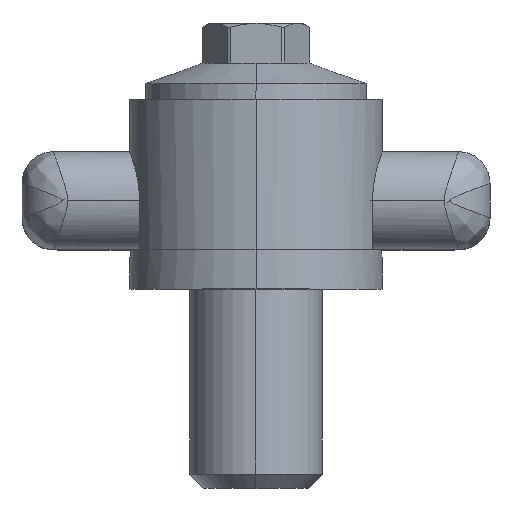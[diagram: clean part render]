
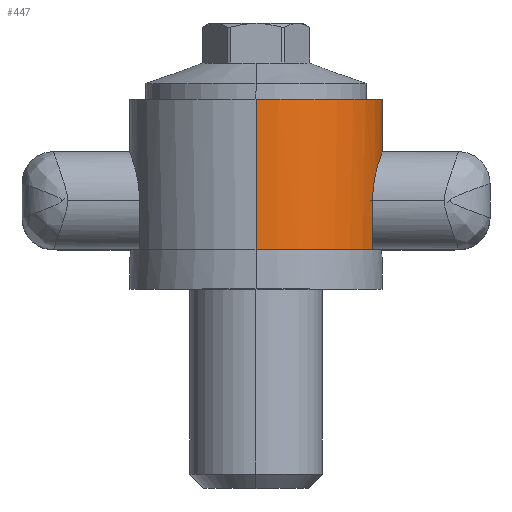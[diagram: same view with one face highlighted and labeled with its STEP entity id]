
A CAD part, top view. The second image highlights one B-rep face of the part: STEP entity #447.
In plain terms, the highlighted cylindrical face has radius 40 mm (diameter 80 mm), a partial arc.
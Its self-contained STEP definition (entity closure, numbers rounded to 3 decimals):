
#398 = EDGE_LOOP ( 'NONE', ( #399, #403, #426, #429, #432, #435, #438, #414 ) ) ;
#399 = ORIENTED_EDGE ( 'NONE', *, *, #400, .F. ) ;
#400 = EDGE_CURVE ( 'NONE', #401, #402, #1291, .T. ) ;
#401 = VERTEX_POINT ( 'NONE', #1283 ) ;
#402 = VERTEX_POINT ( 'NONE', #1282 ) ;
#403 = ORIENTED_EDGE ( 'NONE', *, *, #404, .T. ) ;
#404 = EDGE_CURVE ( 'NONE', #401, #425, #1281, .T. ) ;
#412 = EDGE_CURVE ( 'NONE', #413, #437, #1324, .T. ) ;
#413 = VERTEX_POINT ( 'NONE', #1316 ) ;
#414 = ORIENTED_EDGE ( 'NONE', *, *, #415, .F. ) ;
#415 = EDGE_CURVE ( 'NONE', #402, #413, #1315, .T. ) ;
#425 = VERTEX_POINT ( 'NONE', #1352 ) ;
#426 = ORIENTED_EDGE ( 'NONE', *, *, #427, .F. ) ;
#427 = EDGE_CURVE ( 'NONE', #428, #425, #1351, .T. ) ;
#428 = VERTEX_POINT ( 'NONE', #1346 ) ;
#429 = ORIENTED_EDGE ( 'NONE', *, *, #430, .T. ) ;
#430 = EDGE_CURVE ( 'NONE', #428, #431, #1345, .T. ) ;
#431 = VERTEX_POINT ( 'NONE', #1341 ) ;
#432 = ORIENTED_EDGE ( 'NONE', *, *, #433, .T. ) ;
#433 = EDGE_CURVE ( 'NONE', #431, #434, #1339, .T. ) ;
#434 = VERTEX_POINT ( 'NONE', #1340 ) ;
#435 = ORIENTED_EDGE ( 'NONE', *, *, #436, .T. ) ;
#436 = EDGE_CURVE ( 'NONE', #434, #437, #1364, .T. ) ;
#437 = VERTEX_POINT ( 'NONE', #1439 ) ;
#438 = ORIENTED_EDGE ( 'NONE', *, *, #412, .F. ) ;
#447 = ADVANCED_FACE ( 'NONE', ( #1421 ), #1420, .T. ) ;
#1278 = DIRECTION ( 'NONE',  ( 0., -1., 0. ) ) ;
#1279 = VECTOR ( 'NONE', #1278, 1000. ) ;
#1280 = CARTESIAN_POINT ( 'NONE',  ( 0., 84., 40. ) ) ;
#1281 = LINE ( 'NONE', #1280, #1279 ) ;
#1282 = CARTESIAN_POINT ( 'NONE',  ( 0., 60., -40. ) ) ;
#1283 = CARTESIAN_POINT ( 'NONE',  ( 0., 60., 40. ) ) ;
#1284 = DIRECTION ( 'NONE',  ( 0., 0., 1. ) ) ;
#1285 = DIRECTION ( 'NONE',  ( 0., 1., 0. ) ) ;
#1286 = CARTESIAN_POINT ( 'NONE',  ( 0., 60., 0. ) ) ;
#1287 = AXIS2_PLACEMENT_3D ( 'NONE', #1286, #1285, #1284 ) ;
#1291 = CIRCLE ( 'NONE', #1287, 40. ) ;
#1312 = DIRECTION ( 'NONE',  ( 0., -1., 0. ) ) ;
#1313 = VECTOR ( 'NONE', #1312, 1000. ) ;
#1314 = CARTESIAN_POINT ( 'NONE',  ( 0., 84., -40. ) ) ;
#1315 = LINE ( 'NONE', #1314, #1313 ) ;
#1316 = CARTESIAN_POINT ( 'NONE',  ( 0., 12.5, -40. ) ) ;
#1317 = DIRECTION ( 'NONE',  ( 0., 0., -1. ) ) ;
#1318 = DIRECTION ( 'NONE',  ( 0., -1., 0. ) ) ;
#1319 = CARTESIAN_POINT ( 'NONE',  ( 0., 12.5, 0. ) ) ;
#1320 = AXIS2_PLACEMENT_3D ( 'NONE', #1319, #1318, #1317 ) ;
#1324 = CIRCLE ( 'NONE', #1320, 40. ) ;
#1334 = CARTESIAN_POINT ( 'NONE',  ( 37.092, 32.039, 14.973 ) ) ;
#1335 = CARTESIAN_POINT ( 'NONE',  ( 37.041, 31.545, 15.098 ) ) ;
#1336 = CARTESIAN_POINT ( 'NONE',  ( 36.918, 30.05, 15.397 ) ) ;
#1337 = CARTESIAN_POINT ( 'NONE',  ( 36.875, 29.035, 15.5 ) ) ;
#1338 = CARTESIAN_POINT ( 'NONE',  ( 36.875, 28., 15.5 ) ) ;
#1339 = B_SPLINE_CURVE_WITH_KNOTS ( 'NONE', 3,
 ( #1338, #1337, #1336, #1335, #1334, #1409, #1408, #1407, #1406, #1405, #1404, #1403, #1402, #1401, #1400, #1399, #1398, #1397, #1396, #1395, #1394, #1393, #1392, #1391, #1390, #1389, #1388, #1387, #1386, #1385, #1384, #1383, #1382, #1381, #1380, #1379, #1378, #1377, #1376, #1375, #1374, #1373, #1372, #1371, #1370, #1369, #1368, #1367, #1366, #1365 ),
 .UNSPECIFIED., .F., .F.,
 ( 4, 2, 2, 2, 2, 2, 2, 2, 2, 2, 2, 2, 2, 2, 2, 2, 2, 2, 2, 2, 2, 2, 2, 2, 4 ),
 ( 0., 0.003, 0.005, 0.006, 0.009, 0.011, 0.012, 0.014, 0.015, 0.018, 0.02, 0.021, 0.024, 0.026, 0.028, 0.031, 0.034, 0.035, 0.037, 0.04, 0.041, 0.043, 0.046, 0.047, 0.049 ),
 .UNSPECIFIED. ) ;
#1340 = CARTESIAN_POINT ( 'NONE',  ( 36.875, 28., -15.5 ) ) ;
#1341 = CARTESIAN_POINT ( 'NONE',  ( 36.875, 28., 15.5 ) ) ;
#1342 = DIRECTION ( 'NONE',  ( 0., 1., 0. ) ) ;
#1343 = VECTOR ( 'NONE', #1342, 1000. ) ;
#1344 = CARTESIAN_POINT ( 'NONE',  ( 36.875, 84., 15.5 ) ) ;
#1345 = LINE ( 'NONE', #1344, #1343 ) ;
#1346 = CARTESIAN_POINT ( 'NONE',  ( 36.875, 12.5, 15.5 ) ) ;
#1347 = DIRECTION ( 'NONE',  ( 0., 0., -1. ) ) ;
#1348 = DIRECTION ( 'NONE',  ( 0., -1., 0. ) ) ;
#1349 = CARTESIAN_POINT ( 'NONE',  ( 0., 12.5, 0. ) ) ;
#1350 = AXIS2_PLACEMENT_3D ( 'NONE', #1349, #1348, #1347 ) ;
#1351 = CIRCLE ( 'NONE', #1350, 40. ) ;
#1352 = CARTESIAN_POINT ( 'NONE',  ( 0., 12.5, 40. ) ) ;
#1362 = VECTOR ( 'NONE', #1440, 1000. ) ;
#1363 = CARTESIAN_POINT ( 'NONE',  ( 36.875, 84., -15.5 ) ) ;
#1364 = LINE ( 'NONE', #1363, #1362 ) ;
#1365 = CARTESIAN_POINT ( 'NONE',  ( 36.875, 28., -15.5 ) ) ;
#1366 = CARTESIAN_POINT ( 'NONE',  ( 36.875, 28.517, -15.5 ) ) ;
#1367 = CARTESIAN_POINT ( 'NONE',  ( 36.886, 29.032, -15.474 ) ) ;
#1368 = CARTESIAN_POINT ( 'NONE',  ( 36.929, 30.057, -15.372 ) ) ;
#1369 = CARTESIAN_POINT ( 'NONE',  ( 36.961, 30.568, -15.294 ) ) ;
#1370 = CARTESIAN_POINT ( 'NONE',  ( 37.086, 32.079, -14.989 ) ) ;
#1371 = CARTESIAN_POINT ( 'NONE',  ( 37.207, 33.045, -14.69 ) ) ;
#1372 = CARTESIAN_POINT ( 'NONE',  ( 37.43, 34.441, -14.108 ) ) ;
#1373 = CARTESIAN_POINT ( 'NONE',  ( 37.512, 34.896, -13.89 ) ) ;
#1374 = CARTESIAN_POINT ( 'NONE',  ( 37.686, 35.789, -13.41 ) ) ;
#1375 = CARTESIAN_POINT ( 'NONE',  ( 37.779, 36.226, -13.147 ) ) ;
#1376 = CARTESIAN_POINT ( 'NONE',  ( 38.065, 37.48, -12.304 ) ) ;
#1377 = CARTESIAN_POINT ( 'NONE',  ( 38.267, 38.251, -11.669 ) ) ;
#1378 = CARTESIAN_POINT ( 'NONE',  ( 38.571, 39.316, -10.604 ) ) ;
#1379 = CARTESIAN_POINT ( 'NONE',  ( 38.672, 39.657, -10.228 ) ) ;
#1380 = CARTESIAN_POINT ( 'NONE',  ( 38.871, 40.299, -9.447 ) ) ;
#1381 = CARTESIAN_POINT ( 'NONE',  ( 38.967, 40.599, -9.043 ) ) ;
#1382 = CARTESIAN_POINT ( 'NONE',  ( 39.243, 41.438, -7.791 ) ) ;
#1383 = CARTESIAN_POINT ( 'NONE',  ( 39.412, 41.916, -6.902 ) ) ;
#1384 = CARTESIAN_POINT ( 'NONE',  ( 39.696, 42.703, -5.011 ) ) ;
#1385 = CARTESIAN_POINT ( 'NONE',  ( 39.808, 42.999, -4.039 ) ) ;
#1386 = CARTESIAN_POINT ( 'NONE',  ( 39.922, 43.299, -2.541 ) ) ;
#1387 = CARTESIAN_POINT ( 'NONE',  ( 39.952, 43.375, -2.035 ) ) ;
#1388 = CARTESIAN_POINT ( 'NONE',  ( 39.991, 43.476, -1.009 ) ) ;
#1389 = CARTESIAN_POINT ( 'NONE',  ( 40., 43.501, -0.493 ) ) ;
#1390 = CARTESIAN_POINT ( 'NONE',  ( 40., 43.499, 1.041 ) ) ;
#1391 = CARTESIAN_POINT ( 'NONE',  ( 39.96, 43.397, 2.054 ) ) ;
#1392 = CARTESIAN_POINT ( 'NONE',  ( 39.845, 43.095, 3.558 ) ) ;
#1393 = CARTESIAN_POINT ( 'NONE',  ( 39.797, 42.968, 4.059 ) ) ;
#1394 = CARTESIAN_POINT ( 'NONE',  ( 39.685, 42.668, 5.035 ) ) ;
#1395 = CARTESIAN_POINT ( 'NONE',  ( 39.621, 42.496, 5.511 ) ) ;
#1396 = CARTESIAN_POINT ( 'NONE',  ( 39.41, 41.912, 6.907 ) ) ;
#1397 = CARTESIAN_POINT ( 'NONE',  ( 39.243, 41.436, 7.794 ) ) ;
#1398 = CARTESIAN_POINT ( 'NONE',  ( 38.963, 40.588, 9.059 ) ) ;
#1399 = CARTESIAN_POINT ( 'NONE',  ( 38.866, 40.285, 9.464 ) ) ;
#1400 = CARTESIAN_POINT ( 'NONE',  ( 38.669, 39.647, 10.239 ) ) ;
#1401 = CARTESIAN_POINT ( 'NONE',  ( 38.569, 39.311, 10.609 ) ) ;
#1402 = CARTESIAN_POINT ( 'NONE',  ( 38.368, 38.604, 11.316 ) ) ;
#1403 = CARTESIAN_POINT ( 'NONE',  ( 38.266, 38.233, 11.653 ) ) ;
#1404 = CARTESIAN_POINT ( 'NONE',  ( 38.066, 37.455, 12.293 ) ) ;
#1405 = CARTESIAN_POINT ( 'NONE',  ( 37.966, 37.046, 12.596 ) ) ;
#1406 = CARTESIAN_POINT ( 'NONE',  ( 37.68, 35.789, 13.439 ) ) ;
#1407 = CARTESIAN_POINT ( 'NONE',  ( 37.504, 34.903, 13.915 ) ) ;
#1408 = CARTESIAN_POINT ( 'NONE',  ( 37.28, 33.5, 14.5 ) ) ;
#1409 = CARTESIAN_POINT ( 'NONE',  ( 37.211, 33.017, 14.674 ) ) ;
#1415 = DIRECTION ( 'NONE',  ( 0., 0., -1. ) ) ;
#1416 = DIRECTION ( 'NONE',  ( 0., -1., 0. ) ) ;
#1417 = AXIS2_PLACEMENT_3D ( 'NONE', #1419, #1416, #1415 ) ;
#1419 = CARTESIAN_POINT ( 'NONE',  ( 0., 84., 0. ) ) ;
#1420 = CYLINDRICAL_SURFACE ( 'NONE', #1417, 40. ) ;
#1421 = FACE_OUTER_BOUND ( 'NONE', #398, .T. ) ;
#1439 = CARTESIAN_POINT ( 'NONE',  ( 36.875, 12.5, -15.5 ) ) ;
#1440 = DIRECTION ( 'NONE',  ( 0., -1., 0. ) ) ;
